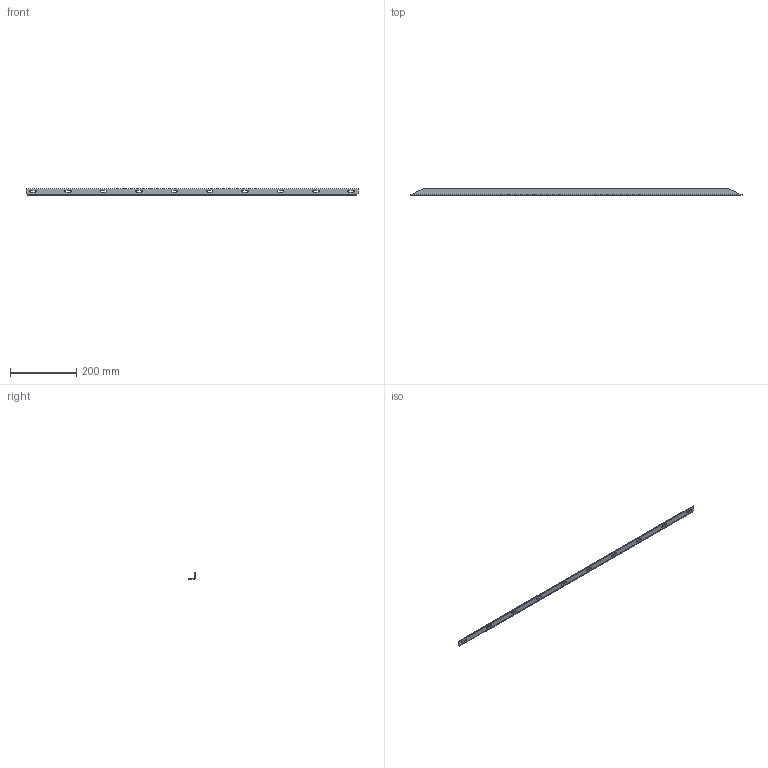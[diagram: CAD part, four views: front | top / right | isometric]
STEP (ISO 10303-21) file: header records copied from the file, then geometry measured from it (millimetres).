
FILE_DESCRIPTION (( 'STEP AP214' ), '1' );
FILE_NAME ('E446-1000.STEP', '2024-12-11T23:00:29', ( '' ), ( '' ), 'SwSTEP 2.0', 'SolidWorks 2024', '' );
FILE_SCHEMA (( 'AUTOMOTIVE_DESIGN' ));
Length unit declared in the file: millimetre
Products named in the file (1): E446-1000
Bounding box: 1000 x 20 x 20 mm (x, y, z)
Volume: 103137 mm3; surface area: 76288.9 mm2
Topology: 1 solids, 1 shells, 108 faces, 298 edges, 196 vertices
Faces by surface type: plane 74, cylinder 28, bspline 6
Entity records: 3599 total; most frequent: CARTESIAN_POINT 785, ORIENTED_EDGE 596, DIRECTION 540, EDGE_CURVE 298, LINE 230, VECTOR 230, VERTEX_POINT 196, AXIS2_PLACEMENT_3D 155
